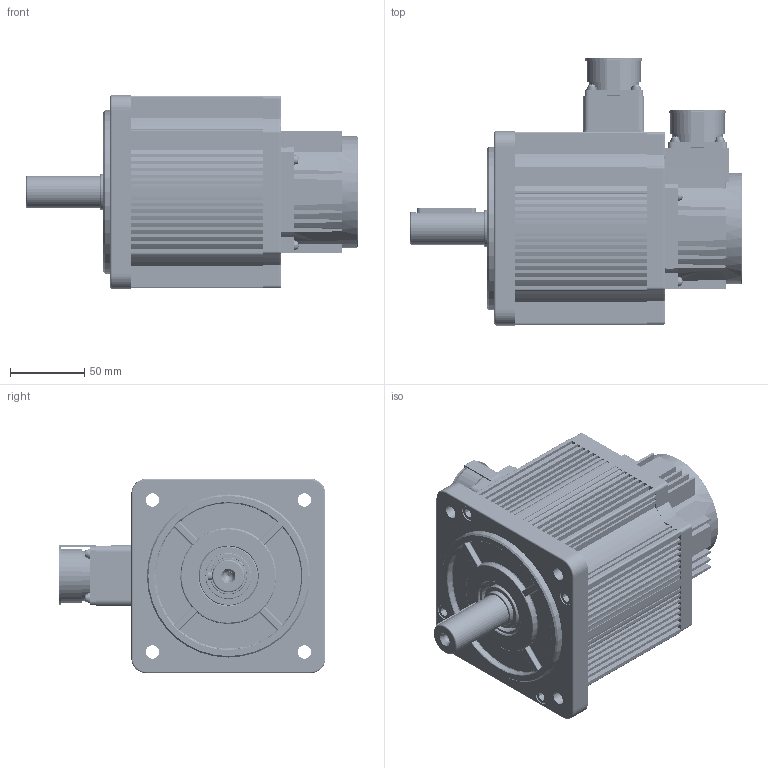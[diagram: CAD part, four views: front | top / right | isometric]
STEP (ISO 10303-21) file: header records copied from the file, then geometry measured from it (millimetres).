
FILE_DESCRIPTION (( 'STEP AP203' ), '1' );
FILE_NAME ('K1-130×°Åä 4Nm.STEP', '2020-01-04T01:16:46', ( 'gs' ), ( 'Microsoft' ), 'SwSTEP 2.0', 'SolidWorks 2019', '' );
FILE_SCHEMA (( 'CONFIG_CONTROL_DESIGN' ));
Length unit declared in the file: millimetre
Products named in the file (23): K1-130盄簽砎蝶菜; K1-130瑤脣雄薯盄; K1-130隅赽郪璃 4Nm; K1-130誘欶躇猾菜; K1-130瑤脣15郋; K1-130蚾饜 4Nm; K1-130ヶ傷裔 譙跡; curved single coil spring lock washers gb_GB_FASTENER_WASHER_CSLW 4; M3X12啋儂; K1-130綴傷裔 譙跡; M3X8囀鞠褒; K1-130す瑩; K1-130粣 4Nm; M3す菜; K1-130瑤脣砎蝶菜; K1-130蛌赽郪璃 4Nm; M6粟菜; K1-130諉盄釱; K1-110晤鎢ん誘欶; M6X20; M4X16啋儂; K1-130儂褲樓馱綴 4Nm; K1-130密封圈
Assembly tree (67 placements, depth 3):
  K1-130蚾饜 4Nm
    K1-130隅赽郪璃 4Nm
      K1-130儂褲樓馱綴 4Nm
    K1-130ヶ傷裔 譙跡
    K1-130綴傷裔 譙跡
    K1-130蛌赽郪璃 4Nm
      K1-130粣 4Nm
    K1-110晤鎢ん誘欶
    K1-130密封圈
    K1-130誘欶躇猾菜
    curved single coil spring lock washers gb_GB_FASTENER_WASHER_CSLW 4  x13
    M3X8囀鞠褒
    M3す菜  x9
    M6粟菜  x8
    M6X20  x8
    K1-130盄簽砎蝶菜  x2
    K1-130瑤脣15郋
    M3X12啋儂  x8
    K1-130す瑩
    K1-130瑤脣砎蝶菜
    K1-130諉盄釱
    M4X16啋儂  x4
    K1-130瑤脣雄薯盄
Bounding box: 224 x 180.1 x 131 mm (x, y, z)
Volume: 814385.5 mm3; surface area: 393749 mm2
Topology: 67 solids, 69 shells, 3424 faces, 9241 edges, 6077 vertices
Faces by surface type: cylinder 2092, plane 1065, bspline 137, cone 70, torus 60
Entity records: 114866 total; most frequent: CARTESIAN_POINT 62295, ORIENTED_EDGE 11192, DIRECTION 9336, EDGE_CURVE 5596, VERTEX_POINT 3670, AXIS2_PLACEMENT_3D 3302, VECTOR 2732, LINE 2732
